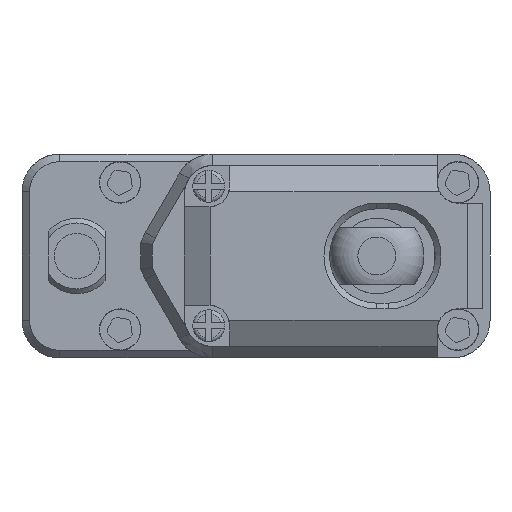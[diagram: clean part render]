
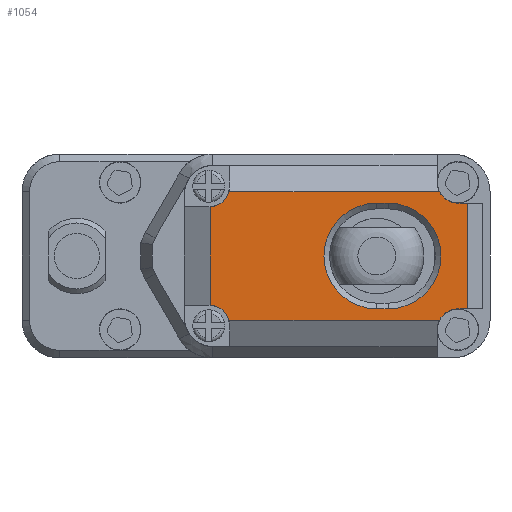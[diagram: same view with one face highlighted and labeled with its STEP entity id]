
A CAD part, front view. The second image highlights one B-rep face of the part: STEP entity #1054.
In plain terms, the highlighted planar face has unit normal (0, -1, 0).
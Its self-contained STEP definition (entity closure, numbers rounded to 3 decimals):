
#257 = VECTOR ( 'NONE', #670, 1000. ) ;
#438 = CARTESIAN_POINT ( 'NONE',  ( 6.4, 5.5, 0. ) ) ;
#516 = CARTESIAN_POINT ( 'NONE',  ( -2.414, 5.5, 2.603 ) ) ;
#670 = DIRECTION ( 'NONE',  ( -1., 0., 0. ) ) ;
#693 = CARTESIAN_POINT ( 'NONE',  ( 4.1, 5.5, 0. ) ) ;
#737 = DIRECTION ( 'NONE',  ( 0., 0., 1. ) ) ;
#848 = EDGE_CURVE ( 'NONE', #10591, #3825, #2467, .T. ) ;
#902 = DIRECTION ( 'NONE',  ( -1., 0., 0. ) ) ;
#1054 = ADVANCED_FACE ( 'NONE', ( #10566, #8269 ), #15359, .T. ) ;
#1415 = DIRECTION ( 'NONE',  ( 0., 0., 1. ) ) ;
#1423 = VECTOR ( 'NONE', #3776, 1000. ) ;
#1556 = VERTEX_POINT ( 'NONE', #12911 ) ;
#1760 = CARTESIAN_POINT ( 'NONE',  ( 9.713, 5.5, -3.414 ) ) ;
#2114 = ORIENTED_EDGE ( 'NONE', *, *, #10122, .T. ) ;
#2166 = CARTESIAN_POINT ( 'NONE',  ( -2.414, 5.5, -3.414 ) ) ;
#2182 = CARTESIAN_POINT ( 'NONE',  ( 7., 5.5, 0. ) ) ;
#2317 = CARTESIAN_POINT ( 'NONE',  ( 7., 5.5, -2.8 ) ) ;
#2467 = LINE ( 'NONE', #14661, #14303 ) ;
#2515 = EDGE_CURVE ( 'NONE', #12144, #3798, #6593, .T. ) ;
#2522 = CARTESIAN_POINT ( 'NONE',  ( 10.7, 5.5, -2.8 ) ) ;
#2685 = CARTESIAN_POINT ( 'NONE',  ( 6.4, 5.5, 2.8 ) ) ;
#2731 = AXIS2_PLACEMENT_3D ( 'NONE', #693, #6853, #3249 ) ;
#3171 = ORIENTED_EDGE ( 'NONE', *, *, #13082, .F. ) ;
#3206 = LINE ( 'NONE', #2166, #5974 ) ;
#3249 = DIRECTION ( 'NONE',  ( 0., 0., 1. ) ) ;
#3256 = ORIENTED_EDGE ( 'NONE', *, *, #9779, .T. ) ;
#3279 = DIRECTION ( 'NONE',  ( 0., 0., -1. ) ) ;
#3350 = CARTESIAN_POINT ( 'NONE',  ( -2.414, 5.5, -2.603 ) ) ;
#3446 = AXIS2_PLACEMENT_3D ( 'NONE', #5549, #6874, #7818 ) ;
#3471 = AXIS2_PLACEMENT_3D ( 'NONE', #11060, #11215, #3902 ) ;
#3776 = DIRECTION ( 'NONE',  ( 1., 0., 0. ) ) ;
#3798 = VERTEX_POINT ( 'NONE', #4840 ) ;
#3825 = VERTEX_POINT ( 'NONE', #10100 ) ;
#3842 = CARTESIAN_POINT ( 'NONE',  ( 7., 5.5, 2.8 ) ) ;
#3902 = DIRECTION ( 'NONE',  ( 0., 0., -1. ) ) ;
#3928 = ORIENTED_EDGE ( 'NONE', *, *, #6347, .T. ) ;
#4017 = DIRECTION ( 'NONE',  ( 1., 0., 0. ) ) ;
#4087 = LINE ( 'NONE', #4167, #15191 ) ;
#4167 = CARTESIAN_POINT ( 'NONE',  ( 11.2, 5.5, 2.8 ) ) ;
#4737 = CARTESIAN_POINT ( 'NONE',  ( 7., 5.5, 2.8 ) ) ;
#4840 = CARTESIAN_POINT ( 'NONE',  ( 10.7, 5.5, 2.8 ) ) ;
#4880 = ORIENTED_EDGE ( 'NONE', *, *, #5473, .T. ) ;
#5047 = VERTEX_POINT ( 'NONE', #1760 ) ;
#5227 = AXIS2_PLACEMENT_3D ( 'NONE', #15317, #5727, #3279 ) ;
#5258 = VERTEX_POINT ( 'NONE', #4737 ) ;
#5473 = EDGE_CURVE ( 'NONE', #12545, #12061, #10394, .T. ) ;
#5507 = DIRECTION ( 'NONE',  ( 0., 0., 1. ) ) ;
#5549 = CARTESIAN_POINT ( 'NONE',  ( -2.5, 5.5, -3.7 ) ) ;
#5599 = AXIS2_PLACEMENT_3D ( 'NONE', #438, #10089, #14870 ) ;
#5654 = VECTOR ( 'NONE', #5704, 1000. ) ;
#5704 = DIRECTION ( 'NONE',  ( -1., 0., 0. ) ) ;
#5727 = DIRECTION ( 'NONE',  ( 0., 1., 0. ) ) ;
#5936 = VERTEX_POINT ( 'NONE', #10936 ) ;
#5974 = VECTOR ( 'NONE', #6737, 1000. ) ;
#6347 = EDGE_CURVE ( 'NONE', #1556, #12144, #4087, .T. ) ;
#6380 = EDGE_CURVE ( 'NONE', #5258, #11257, #14684, .T. ) ;
#6528 = CARTESIAN_POINT ( 'NONE',  ( 9.6, 5.5, -3.414 ) ) ;
#6593 = LINE ( 'NONE', #15032, #257 ) ;
#6737 = DIRECTION ( 'NONE',  ( 0., 0., -1. ) ) ;
#6751 = DIRECTION ( 'NONE',  ( 0., 1., 0. ) ) ;
#6853 = DIRECTION ( 'NONE',  ( 0., -1., 0. ) ) ;
#6874 = DIRECTION ( 'NONE',  ( 0., -1., 0. ) ) ;
#6902 = LINE ( 'NONE', #11633, #9695 ) ;
#7089 = ORIENTED_EDGE ( 'NONE', *, *, #9274, .T. ) ;
#7125 = VERTEX_POINT ( 'NONE', #516 ) ;
#7515 = EDGE_LOOP ( 'NONE', ( #8351, #4880, #13017, #13222 ) ) ;
#7818 = DIRECTION ( 'NONE',  ( 0., 0., 1. ) ) ;
#8269 = FACE_BOUND ( 'NONE', #7515, .T. ) ;
#8351 = ORIENTED_EDGE ( 'NONE', *, *, #14444, .T. ) ;
#8475 = VECTOR ( 'NONE', #4017, 1000. ) ;
#8962 = EDGE_CURVE ( 'NONE', #5936, #14013, #10243, .T. ) ;
#9189 = VERTEX_POINT ( 'NONE', #2522 ) ;
#9274 = EDGE_CURVE ( 'NONE', #5936, #5047, #12519, .T. ) ;
#9595 = EDGE_CURVE ( 'NONE', #12061, #5258, #12264, .T. ) ;
#9695 = VECTOR ( 'NONE', #902, 1000. ) ;
#9779 = EDGE_CURVE ( 'NONE', #7125, #14013, #3206, .T. ) ;
#10012 = ORIENTED_EDGE ( 'NONE', *, *, #848, .T. ) ;
#10041 = ORIENTED_EDGE ( 'NONE', *, *, #2515, .T. ) ;
#10089 = DIRECTION ( 'NONE',  ( 0., 1., 0. ) ) ;
#10100 = CARTESIAN_POINT ( 'NONE',  ( -1.438, 5.5, 3.414 ) ) ;
#10122 = EDGE_CURVE ( 'NONE', #3798, #10591, #13733, .T. ) ;
#10243 = CIRCLE ( 'NONE', #3446, 1.1 ) ;
#10266 = CIRCLE ( 'NONE', #5227, 1.1 ) ;
#10293 = ORIENTED_EDGE ( 'NONE', *, *, #8962, .F. ) ;
#10394 = CIRCLE ( 'NONE', #5599, 2.8 ) ;
#10566 = FACE_OUTER_BOUND ( 'NONE', #12439, .T. ) ;
#10591 = VERTEX_POINT ( 'NONE', #15063 ) ;
#10936 = CARTESIAN_POINT ( 'NONE',  ( -1.438, 5.5, -3.414 ) ) ;
#11060 = CARTESIAN_POINT ( 'NONE',  ( 10.7, 5.5, 3.9 ) ) ;
#11215 = DIRECTION ( 'NONE',  ( 0., 1., 0. ) ) ;
#11257 = VERTEX_POINT ( 'NONE', #2317 ) ;
#11283 = EDGE_CURVE ( 'NONE', #5047, #9189, #10266, .T. ) ;
#11633 = CARTESIAN_POINT ( 'NONE',  ( 4.1, 5.5, -2.8 ) ) ;
#11672 = CARTESIAN_POINT ( 'NONE',  ( 4.1, 5.5, -2.8 ) ) ;
#12061 = VERTEX_POINT ( 'NONE', #2685 ) ;
#12144 = VERTEX_POINT ( 'NONE', #13942 ) ;
#12264 = LINE ( 'NONE', #3842, #1423 ) ;
#12439 = EDGE_LOOP ( 'NONE', ( #3171, #3256, #10293, #7089, #15366, #13147, #3928, #10041, #2114, #10012 ) ) ;
#12519 = LINE ( 'NONE', #6528, #8475 ) ;
#12545 = VERTEX_POINT ( 'NONE', #12905 ) ;
#12905 = CARTESIAN_POINT ( 'NONE',  ( 6.4, 5.5, -2.8 ) ) ;
#12911 = CARTESIAN_POINT ( 'NONE',  ( 11.2, 5.5, -2.8 ) ) ;
#12933 = AXIS2_PLACEMENT_3D ( 'NONE', #2182, #6751, #737 ) ;
#13017 = ORIENTED_EDGE ( 'NONE', *, *, #9595, .T. ) ;
#13082 = EDGE_CURVE ( 'NONE', #7125, #3825, #15595, .T. ) ;
#13147 = ORIENTED_EDGE ( 'NONE', *, *, #13593, .F. ) ;
#13222 = ORIENTED_EDGE ( 'NONE', *, *, #6380, .T. ) ;
#13329 = DIRECTION ( 'NONE',  ( 0., -1., 0. ) ) ;
#13593 = EDGE_CURVE ( 'NONE', #1556, #9189, #6902, .T. ) ;
#13733 = CIRCLE ( 'NONE', #3471, 1.1 ) ;
#13942 = CARTESIAN_POINT ( 'NONE',  ( 11.2, 5.5, 2.8 ) ) ;
#14013 = VERTEX_POINT ( 'NONE', #3350 ) ;
#14041 = LINE ( 'NONE', #11672, #5654 ) ;
#14098 = AXIS2_PLACEMENT_3D ( 'NONE', #15604, #13329, #1415 ) ;
#14303 = VECTOR ( 'NONE', #14585, 1000. ) ;
#14444 = EDGE_CURVE ( 'NONE', #11257, #12545, #14041, .T. ) ;
#14585 = DIRECTION ( 'NONE',  ( -1., 0., 0. ) ) ;
#14661 = CARTESIAN_POINT ( 'NONE',  ( -3.8, 5.5, 3.414 ) ) ;
#14684 = CIRCLE ( 'NONE', #12933, 2.8 ) ;
#14870 = DIRECTION ( 'NONE',  ( 0., 0., 1. ) ) ;
#15032 = CARTESIAN_POINT ( 'NONE',  ( 4.1, 5.5, 2.8 ) ) ;
#15063 = CARTESIAN_POINT ( 'NONE',  ( 9.713, 5.5, 3.414 ) ) ;
#15191 = VECTOR ( 'NONE', #5507, 1000. ) ;
#15317 = CARTESIAN_POINT ( 'NONE',  ( 10.7, 5.5, -3.9 ) ) ;
#15359 = PLANE ( 'NONE',  #2731 ) ;
#15366 = ORIENTED_EDGE ( 'NONE', *, *, #11283, .T. ) ;
#15595 = CIRCLE ( 'NONE', #14098, 1.1 ) ;
#15604 = CARTESIAN_POINT ( 'NONE',  ( -2.5, 5.5, 3.7 ) ) ;
